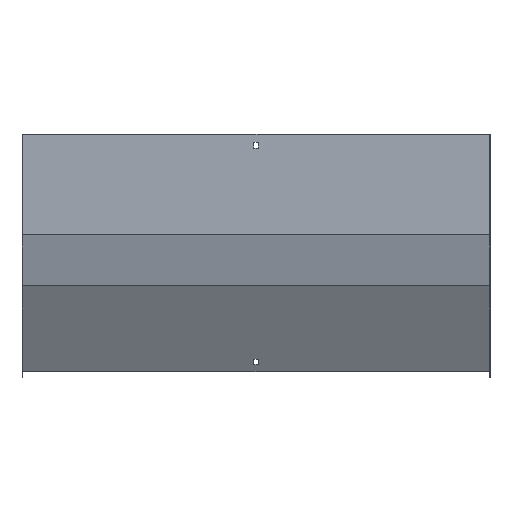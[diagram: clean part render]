
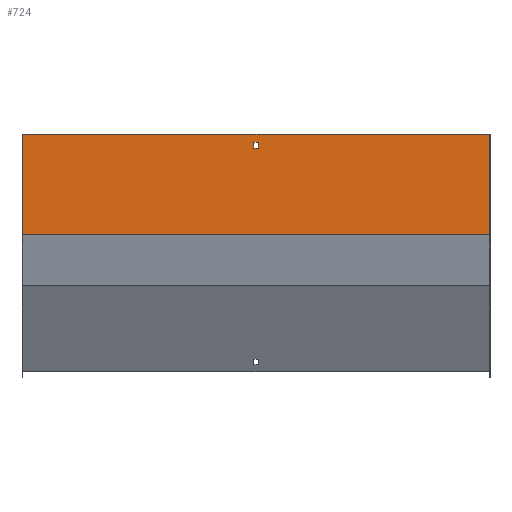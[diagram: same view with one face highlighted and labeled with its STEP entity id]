
A CAD part, front view. The second image highlights one B-rep face of the part: STEP entity #724.
In plain terms, the highlighted planar face has unit normal (0, -1, 0).
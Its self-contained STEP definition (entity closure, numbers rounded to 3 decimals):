
#9 = EDGE_CURVE ( 'NONE', #574, #93, #213, .T. ) ;
#18 = DIRECTION ( 'NONE',  ( 0., 0., -1. ) ) ;
#25 = DIRECTION ( 'NONE',  ( -1., 0., 0. ) ) ;
#26 = LINE ( 'NONE', #97, #403 ) ;
#30 = ORIENTED_EDGE ( 'NONE', *, *, #158, .F. ) ;
#50 = CARTESIAN_POINT ( 'NONE',  ( 350., -1.5, -150.097 ) ) ;
#59 = CARTESIAN_POINT ( 'NONE',  ( 351.5, -1.5, 0. ) ) ;
#66 = VERTEX_POINT ( 'NONE', #463 ) ;
#72 = ORIENTED_EDGE ( 'NONE', *, *, #9, .T. ) ;
#76 = EDGE_CURVE ( 'NONE', #298, #635, #395, .T. ) ;
#77 = CARTESIAN_POINT ( 'NONE',  ( -350., -1.5, 0. ) ) ;
#93 = VERTEX_POINT ( 'NONE', #288 ) ;
#97 = CARTESIAN_POINT ( 'NONE',  ( -3.25, -1.5, 0. ) ) ;
#101 = LINE ( 'NONE', #419, #829 ) ;
#118 = FACE_OUTER_BOUND ( 'NONE', #789, .T. ) ;
#150 = LINE ( 'NONE', #401, #341 ) ;
#158 = EDGE_CURVE ( 'NONE', #635, #93, #101, .T. ) ;
#163 = EDGE_CURVE ( 'NONE', #281, #294, #492, .T. ) ;
#168 = ORIENTED_EDGE ( 'NONE', *, *, #669, .F. ) ;
#170 = EDGE_CURVE ( 'NONE', #298, #574, #218, .T. ) ;
#176 = LINE ( 'NONE', #432, #284 ) ;
#198 = EDGE_CURVE ( 'NONE', #66, #281, #26, .T. ) ;
#213 = LINE ( 'NONE', #77, #510 ) ;
#218 = LINE ( 'NONE', #816, #559 ) ;
#227 = ORIENTED_EDGE ( 'NONE', *, *, #501, .F. ) ;
#229 = DIRECTION ( 'NONE',  ( 0., 0., 1. ) ) ;
#281 = VERTEX_POINT ( 'NONE', #839 ) ;
#284 = VECTOR ( 'NONE', #229, 1000. ) ;
#288 = CARTESIAN_POINT ( 'NONE',  ( -350., -1.5, -150.097 ) ) ;
#291 = CARTESIAN_POINT ( 'NONE',  ( 350., -1.5, 0. ) ) ;
#294 = VERTEX_POINT ( 'NONE', #773 ) ;
#297 = CARTESIAN_POINT ( 'NONE',  ( 3.25, -1.5, -12. ) ) ;
#298 = VERTEX_POINT ( 'NONE', #291 ) ;
#339 = CARTESIAN_POINT ( 'NONE',  ( -350., -1.5, 0. ) ) ;
#341 = VECTOR ( 'NONE', #25, 1000. ) ;
#351 = DIRECTION ( 'NONE',  ( 0., 0., -1. ) ) ;
#355 = FACE_BOUND ( 'NONE', #556, .T. ) ;
#358 = VECTOR ( 'NONE', #473, 1000. ) ;
#369 = PLANE ( 'NONE',  #853 ) ;
#395 = LINE ( 'NONE', #662, #358 ) ;
#401 = CARTESIAN_POINT ( 'NONE',  ( 351.5, -1.5, -12. ) ) ;
#403 = VECTOR ( 'NONE', #351, 1000. ) ;
#419 = CARTESIAN_POINT ( 'NONE',  ( 351.5, -1.5, -150.097 ) ) ;
#432 = CARTESIAN_POINT ( 'NONE',  ( 3.25, -1.5, 0. ) ) ;
#448 = VECTOR ( 'NONE', #764, 1000. ) ;
#463 = CARTESIAN_POINT ( 'NONE',  ( -3.25, -1.5, -12. ) ) ;
#473 = DIRECTION ( 'NONE',  ( 0., 0., -1. ) ) ;
#492 = LINE ( 'NONE', #754, #448 ) ;
#501 = EDGE_CURVE ( 'NONE', #706, #66, #150, .T. ) ;
#510 = VECTOR ( 'NONE', #18, 1000. ) ;
#548 = DIRECTION ( 'NONE',  ( -1., 0., 0. ) ) ;
#556 = EDGE_LOOP ( 'NONE', ( #168, #576, #684, #227 ) ) ;
#557 = DIRECTION ( 'NONE',  ( 0., 0., 1. ) ) ;
#559 = VECTOR ( 'NONE', #679, 1000. ) ;
#574 = VERTEX_POINT ( 'NONE', #339 ) ;
#576 = ORIENTED_EDGE ( 'NONE', *, *, #163, .F. ) ;
#635 = VERTEX_POINT ( 'NONE', #50 ) ;
#662 = CARTESIAN_POINT ( 'NONE',  ( 350., -1.5, 0. ) ) ;
#669 = EDGE_CURVE ( 'NONE', #294, #706, #176, .T. ) ;
#679 = DIRECTION ( 'NONE',  ( -1., 0., 0. ) ) ;
#684 = ORIENTED_EDGE ( 'NONE', *, *, #198, .F. ) ;
#697 = ORIENTED_EDGE ( 'NONE', *, *, #170, .T. ) ;
#706 = VERTEX_POINT ( 'NONE', #297 ) ;
#724 = ADVANCED_FACE ( 'NONE', ( #118, #355 ), #369, .F. ) ;
#754 = CARTESIAN_POINT ( 'NONE',  ( 351.5, -1.5, -21. ) ) ;
#764 = DIRECTION ( 'NONE',  ( 1., 0., 0. ) ) ;
#773 = CARTESIAN_POINT ( 'NONE',  ( 3.25, -1.5, -21. ) ) ;
#789 = EDGE_LOOP ( 'NONE', ( #72, #30, #843, #697 ) ) ;
#816 = CARTESIAN_POINT ( 'NONE',  ( 351.5, -1.5, 0. ) ) ;
#829 = VECTOR ( 'NONE', #548, 1000. ) ;
#839 = CARTESIAN_POINT ( 'NONE',  ( -3.25, -1.5, -21. ) ) ;
#843 = ORIENTED_EDGE ( 'NONE', *, *, #76, .F. ) ;
#847 = DIRECTION ( 'NONE',  ( 0., 1., 0. ) ) ;
#853 = AXIS2_PLACEMENT_3D ( 'NONE', #59, #847, #557 ) ;
